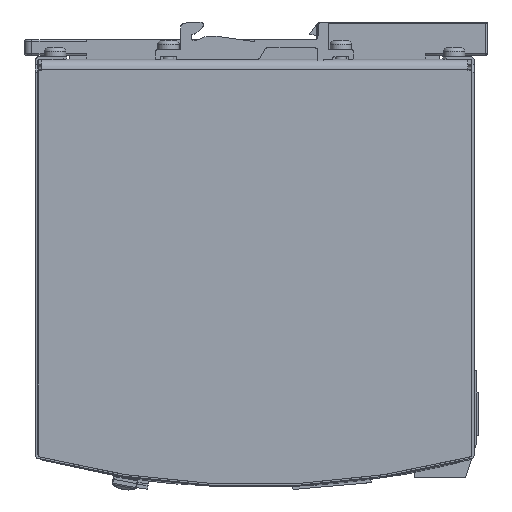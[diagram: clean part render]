
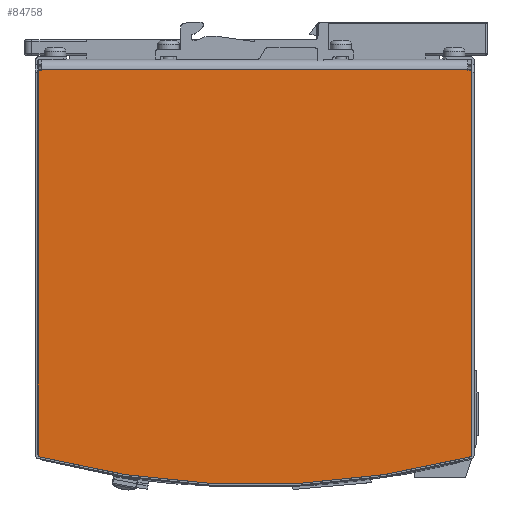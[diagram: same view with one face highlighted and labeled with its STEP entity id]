
A CAD part, left-side view. The second image highlights one B-rep face of the part: STEP entity #84758.
In plain terms, the highlighted planar face has unit normal (-1, 0, 0) as drawn and (0, 1, 0) by its records, which use the part's own axes.
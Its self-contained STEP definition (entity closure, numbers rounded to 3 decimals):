
#4231=CIRCLE('',#89495,0.5);
#4234=CIRCLE('',#89499,240.);
#4236=CIRCLE('',#89504,0.5);
#7503=FACE_OUTER_BOUND('',#12964,.T.);
#12964=EDGE_LOOP('',(#69597,#69598,#69599,#69600,#69601,#69602,#69603,#69604,
#69605,#69606));
#22276=LINE('',#124840,#32150);
#22277=LINE('',#124842,#32151);
#22278=LINE('',#124844,#32152);
#22279=LINE('',#124846,#32153);
#22280=LINE('',#124848,#32154);
#22281=LINE('',#124850,#32155);
#22282=LINE('',#124851,#32156);
#32150=VECTOR('',#103707,10.);
#32151=VECTOR('',#103708,10.);
#32152=VECTOR('',#103709,10.);
#32153=VECTOR('',#103710,10.);
#32154=VECTOR('',#103711,10.);
#32155=VECTOR('',#103712,10.);
#32156=VECTOR('',#103713,10.);
#39637=VERTEX_POINT('',#124798);
#39638=VERTEX_POINT('',#124799);
#39642=VERTEX_POINT('',#124809);
#39652=VERTEX_POINT('',#124835);
#39653=VERTEX_POINT('',#124839);
#39654=VERTEX_POINT('',#124841);
#39655=VERTEX_POINT('',#124843);
#39656=VERTEX_POINT('',#124845);
#39657=VERTEX_POINT('',#124847);
#39658=VERTEX_POINT('',#124849);
#50115=EDGE_CURVE('',#39637,#39638,#4231,.T.);
#50121=EDGE_CURVE('',#39637,#39642,#4234,.T.);
#50134=EDGE_CURVE('',#39652,#39642,#4236,.T.);
#50135=EDGE_CURVE('',#39653,#39652,#22276,.T.);
#50136=EDGE_CURVE('',#39653,#39654,#22277,.T.);
#50137=EDGE_CURVE('',#39654,#39655,#22278,.T.);
#50138=EDGE_CURVE('',#39655,#39656,#22279,.T.);
#50139=EDGE_CURVE('',#39656,#39657,#22280,.T.);
#50140=EDGE_CURVE('',#39657,#39658,#22281,.T.);
#50141=EDGE_CURVE('',#39658,#39638,#22282,.T.);
#69597=ORIENTED_EDGE('',*,*,#50115,.F.);
#69598=ORIENTED_EDGE('',*,*,#50121,.T.);
#69599=ORIENTED_EDGE('',*,*,#50134,.F.);
#69600=ORIENTED_EDGE('',*,*,#50135,.F.);
#69601=ORIENTED_EDGE('',*,*,#50136,.T.);
#69602=ORIENTED_EDGE('',*,*,#50137,.T.);
#69603=ORIENTED_EDGE('',*,*,#50138,.T.);
#69604=ORIENTED_EDGE('',*,*,#50139,.T.);
#69605=ORIENTED_EDGE('',*,*,#50140,.T.);
#69606=ORIENTED_EDGE('',*,*,#50141,.T.);
#81374=PLANE('',#89505);
#84758=ADVANCED_FACE('',(#7503),#81374,.T.);
#89495=AXIS2_PLACEMENT_3D('',#124800,#103671,#103672);
#89499=AXIS2_PLACEMENT_3D('',#124811,#103682,#103683);
#89504=AXIS2_PLACEMENT_3D('',#124837,#103703,#103704);
#89505=AXIS2_PLACEMENT_3D('',#124838,#103705,#103706);
#103671=DIRECTION('center_axis',(0.,-1.,0.));
#103672=DIRECTION('ref_axis',(0.611,0.,0.792));
#103682=DIRECTION('center_axis',(0.,1.,0.));
#103683=DIRECTION('ref_axis',(-0.967,0.,-0.255));
#103703=DIRECTION('center_axis',(0.,-1.,0.));
#103704=DIRECTION('ref_axis',(0.611,0.,-0.792));
#103705=DIRECTION('center_axis',(0.,1.,0.));
#103706=DIRECTION('ref_axis',(0.,0.,1.));
#103707=DIRECTION('',(1.,0.,0.));
#103708=DIRECTION('',(0.,0.,1.));
#103709=DIRECTION('',(-1.,0.,0.));
#103710=DIRECTION('',(0.,0.,1.));
#103711=DIRECTION('',(1.,0.,0.));
#103712=DIRECTION('',(0.,0.,1.));
#103713=DIRECTION('',(1.,0.,0.));
#124798=CARTESIAN_POINT('',(112.177,27.5,60.777));
#124799=CARTESIAN_POINT('',(111.693,27.5,61.15));
#124800=CARTESIAN_POINT('Origin',(111.693,27.5,60.65));
#124809=CARTESIAN_POINT('',(112.177,27.5,-60.777));
#124811=CARTESIAN_POINT('Origin',(-120.,27.5,0.));
#124835=CARTESIAN_POINT('',(111.693,27.5,-61.15));
#124837=CARTESIAN_POINT('Origin',(111.693,27.5,-60.65));
#124838=CARTESIAN_POINT('Origin',(0.,27.5,-61.15));
#124839=CARTESIAN_POINT('',(3.1,27.5,-61.15));
#124840=CARTESIAN_POINT('',(0.,27.5,-61.15));
#124841=CARTESIAN_POINT('',(3.1,27.5,-60.15));
#124842=CARTESIAN_POINT('',(3.1,27.5,-60.9));
#124843=CARTESIAN_POINT('',(3.,27.5,-60.15));
#124844=CARTESIAN_POINT('',(0.,27.5,-60.15));
#124845=CARTESIAN_POINT('',(3.,27.5,60.15));
#124846=CARTESIAN_POINT('',(3.,27.5,-30.575));
#124847=CARTESIAN_POINT('',(3.1,27.5,60.15));
#124848=CARTESIAN_POINT('',(0.,27.5,60.15));
#124849=CARTESIAN_POINT('',(3.1,27.5,61.15));
#124850=CARTESIAN_POINT('',(3.1,27.5,-0.25));
#124851=CARTESIAN_POINT('',(0.,27.5,61.15));
